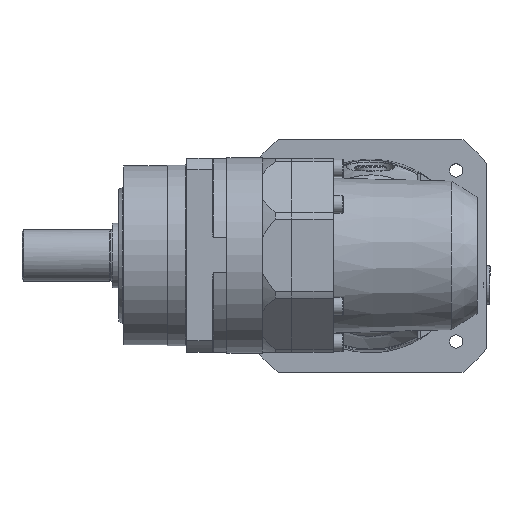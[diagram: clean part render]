
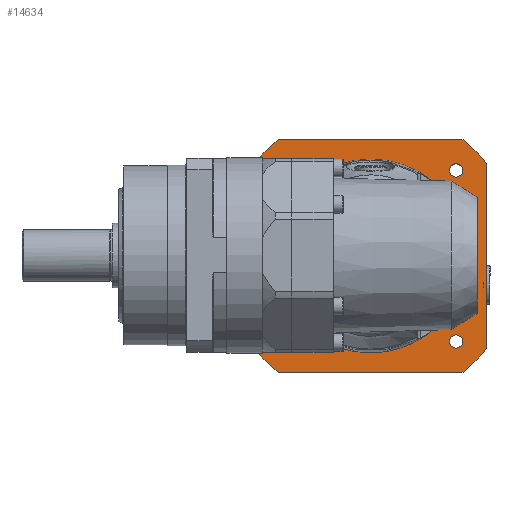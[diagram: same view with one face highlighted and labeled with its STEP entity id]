
A CAD part, top view. The second image highlights one B-rep face of the part: STEP entity #14634.
In plain terms, the highlighted planar face has unit normal (0, 0, 1) as drawn and (-1, 0, 0) by its records, which use the part's own axes.
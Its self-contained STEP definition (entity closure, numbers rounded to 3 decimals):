
#1087=FACE_BOUND('',#3141,.T.);
#1088=FACE_BOUND('',#3142,.T.);
#1089=FACE_BOUND('',#3143,.T.);
#1090=FACE_BOUND('',#3144,.T.);
#1091=FACE_BOUND('',#3145,.T.);
#1386=PLANE('',#17115);
#2142=FACE_OUTER_BOUND('',#3140,.T.);
#3140=EDGE_LOOP('',(#13375,#13376,#13377,#13378,#13379,#13380,#13381,#13382));
#3141=EDGE_LOOP('',(#13383));
#3142=EDGE_LOOP('',(#13384));
#3143=EDGE_LOOP('',(#13385));
#3144=EDGE_LOOP('',(#13386));
#3145=EDGE_LOOP('',(#13387,#13388));
#3986=LINE('',#28379,#4694);
#3989=LINE('',#28385,#4697);
#3992=LINE('',#28391,#4700);
#3995=LINE('',#28400,#4703);
#4694=VECTOR('',#21607,10.);
#4697=VECTOR('',#21612,10.);
#4700=VECTOR('',#21617,10.);
#4703=VECTOR('',#21628,10.);
#5798=CIRCLE('',#17116,46.);
#5799=CIRCLE('',#17117,46.);
#5800=CIRCLE('',#17118,46.);
#5801=CIRCLE('',#17119,46.);
#5802=CIRCLE('',#17120,2.067);
#5803=CIRCLE('',#17121,2.067);
#5804=CIRCLE('',#17122,2.067);
#5805=CIRCLE('',#17123,2.067);
#5806=CIRCLE('',#17124,30.);
#5807=CIRCLE('',#17125,30.);
#7358=VERTEX_POINT('',#28377);
#7359=VERTEX_POINT('',#28378);
#7360=VERTEX_POINT('',#28383);
#7361=VERTEX_POINT('',#28384);
#7362=VERTEX_POINT('',#28389);
#7363=VERTEX_POINT('',#28390);
#7364=VERTEX_POINT('',#28397);
#7365=VERTEX_POINT('',#28399);
#7366=VERTEX_POINT('',#28402);
#7367=VERTEX_POINT('',#28404);
#7368=VERTEX_POINT('',#28406);
#7369=VERTEX_POINT('',#28408);
#7370=VERTEX_POINT('',#28410);
#7371=VERTEX_POINT('',#28411);
#9390=EDGE_CURVE('',#7358,#7359,#3986,.T.);
#9393=EDGE_CURVE('',#7360,#7361,#3989,.T.);
#9396=EDGE_CURVE('',#7362,#7363,#3992,.T.);
#9399=EDGE_CURVE('',#7360,#7359,#5798,.T.);
#9400=EDGE_CURVE('',#7362,#7361,#5799,.T.);
#9401=EDGE_CURVE('',#7364,#7363,#5800,.T.);
#9402=EDGE_CURVE('',#7364,#7365,#3995,.T.);
#9403=EDGE_CURVE('',#7358,#7365,#5801,.T.);
#9404=EDGE_CURVE('',#7366,#7366,#5802,.T.);
#9405=EDGE_CURVE('',#7367,#7367,#5803,.T.);
#9406=EDGE_CURVE('',#7368,#7368,#5804,.T.);
#9407=EDGE_CURVE('',#7369,#7369,#5805,.T.);
#9408=EDGE_CURVE('',#7370,#7371,#5806,.T.);
#9409=EDGE_CURVE('',#7371,#7370,#5807,.T.);
#13375=ORIENTED_EDGE('',*,*,#9390,.T.);
#13376=ORIENTED_EDGE('',*,*,#9399,.F.);
#13377=ORIENTED_EDGE('',*,*,#9393,.T.);
#13378=ORIENTED_EDGE('',*,*,#9400,.F.);
#13379=ORIENTED_EDGE('',*,*,#9396,.T.);
#13380=ORIENTED_EDGE('',*,*,#9401,.F.);
#13381=ORIENTED_EDGE('',*,*,#9402,.T.);
#13382=ORIENTED_EDGE('',*,*,#9403,.F.);
#13383=ORIENTED_EDGE('',*,*,#9404,.T.);
#13384=ORIENTED_EDGE('',*,*,#9405,.T.);
#13385=ORIENTED_EDGE('',*,*,#9406,.T.);
#13386=ORIENTED_EDGE('',*,*,#9407,.T.);
#13387=ORIENTED_EDGE('',*,*,#9408,.T.);
#13388=ORIENTED_EDGE('',*,*,#9409,.T.);
#14634=ADVANCED_FACE('',(#2142,#1087,#1088,#1089,#1090,#1091),#1386,.T.);
#17115=AXIS2_PLACEMENT_3D('',#28394,#21620,#21621);
#17116=AXIS2_PLACEMENT_3D('',#28395,#21622,#21623);
#17117=AXIS2_PLACEMENT_3D('',#28396,#21624,#21625);
#17118=AXIS2_PLACEMENT_3D('',#28398,#21626,#21627);
#17119=AXIS2_PLACEMENT_3D('',#28401,#21629,#21630);
#17120=AXIS2_PLACEMENT_3D('',#28403,#21631,#21632);
#17121=AXIS2_PLACEMENT_3D('',#28405,#21633,#21634);
#17122=AXIS2_PLACEMENT_3D('',#28407,#21635,#21636);
#17123=AXIS2_PLACEMENT_3D('',#28409,#21637,#21638);
#17124=AXIS2_PLACEMENT_3D('',#28412,#21639,#21640);
#17125=AXIS2_PLACEMENT_3D('',#28413,#21641,#21642);
#21607=DIRECTION('',(0.,-0.707,-0.707));
#21612=DIRECTION('',(0.,-0.707,0.707));
#21617=DIRECTION('',(0.,0.707,0.707));
#21620=DIRECTION('center_axis',(-1.,0.,0.));
#21621=DIRECTION('ref_axis',(0.,0.,1.));
#21622=DIRECTION('center_axis',(1.,0.,0.));
#21623=DIRECTION('ref_axis',(0.,1.,0.));
#21624=DIRECTION('center_axis',(1.,0.,0.));
#21625=DIRECTION('ref_axis',(0.,1.,0.));
#21626=DIRECTION('center_axis',(1.,0.,0.));
#21627=DIRECTION('ref_axis',(0.,1.,0.));
#21628=DIRECTION('',(0.,0.707,-0.707));
#21629=DIRECTION('center_axis',(1.,0.,0.));
#21630=DIRECTION('ref_axis',(0.,1.,0.));
#21631=DIRECTION('center_axis',(1.,0.,0.));
#21632=DIRECTION('ref_axis',(0.,0.,-1.));
#21633=DIRECTION('center_axis',(1.,0.,0.));
#21634=DIRECTION('ref_axis',(0.,0.,-1.));
#21635=DIRECTION('center_axis',(1.,0.,0.));
#21636=DIRECTION('ref_axis',(0.,0.,-1.));
#21637=DIRECTION('center_axis',(1.,0.,0.));
#21638=DIRECTION('ref_axis',(0.,0.,-1.));
#21639=DIRECTION('center_axis',(1.,0.,0.));
#21640=DIRECTION('ref_axis',(0.,1.,0.));
#21641=DIRECTION('center_axis',(1.,0.,0.));
#21642=DIRECTION('ref_axis',(0.,1.,0.));
#28377=CARTESIAN_POINT('',(4.,45.704,-5.207));
#28378=CARTESIAN_POINT('',(4.,5.207,-45.704));
#28379=CARTESIAN_POINT('',(4.,45.08,-5.832));
#28383=CARTESIAN_POINT('',(4.,-5.207,-45.704));
#28384=CARTESIAN_POINT('',(4.,-45.704,-5.207));
#28385=CARTESIAN_POINT('',(4.,-5.832,-45.08));
#28389=CARTESIAN_POINT('',(4.,-45.704,5.207));
#28390=CARTESIAN_POINT('',(4.,-5.207,45.704));
#28391=CARTESIAN_POINT('',(4.,-26.08,24.832));
#28394=CARTESIAN_POINT('Origin',(4.,38.,0.));
#28395=CARTESIAN_POINT('Origin',(4.,0.,0.));
#28396=CARTESIAN_POINT('Origin',(4.,0.,0.));
#28397=CARTESIAN_POINT('',(4.,5.207,45.704));
#28398=CARTESIAN_POINT('Origin',(4.,0.,0.));
#28399=CARTESIAN_POINT('',(4.,45.704,5.207));
#28400=CARTESIAN_POINT('',(4.,24.832,26.08));
#28401=CARTESIAN_POINT('Origin',(4.,0.,0.));
#28402=CARTESIAN_POINT('',(4.,-37.5,2.067));
#28403=CARTESIAN_POINT('Origin',(4.,-37.5,0.));
#28404=CARTESIAN_POINT('',(4.,37.5,2.067));
#28405=CARTESIAN_POINT('Origin',(4.,37.5,0.));
#28406=CARTESIAN_POINT('',(4.,0.,39.567));
#28407=CARTESIAN_POINT('Origin',(4.,0.,
37.5));
#28408=CARTESIAN_POINT('',(4.,0.,-35.433));
#28409=CARTESIAN_POINT('Origin',(4.,0.,
-37.5));
#28410=CARTESIAN_POINT('',(4.,30.,0.));
#28411=CARTESIAN_POINT('',(4.,-30.,0.));
#28412=CARTESIAN_POINT('Origin',(4.,0.,0.));
#28413=CARTESIAN_POINT('Origin',(4.,0.,0.));
